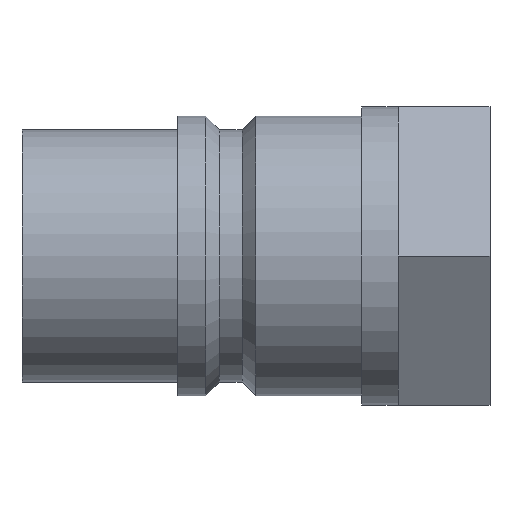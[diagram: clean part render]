
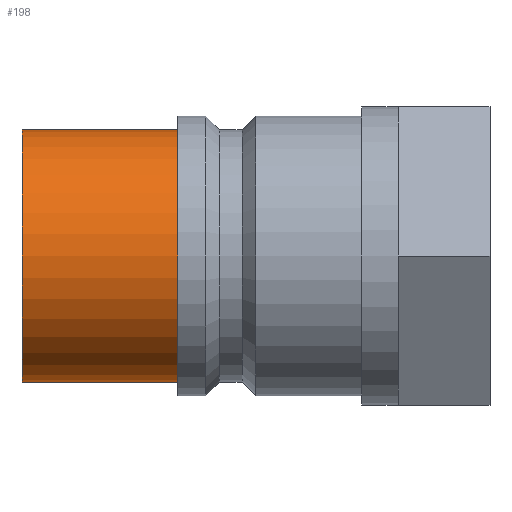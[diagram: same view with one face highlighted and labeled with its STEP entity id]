
A CAD part, front view. The second image highlights one B-rep face of the part: STEP entity #198.
In plain terms, the highlighted cylindrical face has radius 27.5 mm (diameter 55 mm), a partial arc.
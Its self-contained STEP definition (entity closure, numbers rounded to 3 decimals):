
#22 = CARTESIAN_POINT ( 'NONE',  ( 0., 0., 27.5 ) ) ;
#39 = VECTOR ( 'NONE', #316, 1000. ) ;
#46 = AXIS2_PLACEMENT_3D ( 'NONE', #734, #738, #752 ) ;
#103 = EDGE_CURVE ( 'NONE', #227, #874, #554, .T. ) ;
#111 = ORIENTED_EDGE ( 'NONE', *, *, #505, .F. ) ;
#177 = CIRCLE ( 'NONE', #187, 27.5 ) ;
#179 = CARTESIAN_POINT ( 'NONE',  ( 0., 0., -27.5 ) ) ;
#187 = AXIS2_PLACEMENT_3D ( 'NONE', #595, #601, #612 ) ;
#197 = EDGE_CURVE ( 'NONE', #874, #268, #263, .T. ) ;
#198 = ADVANCED_FACE ( 'NONE', ( #309 ), #617, .T. ) ;
#215 = CARTESIAN_POINT ( 'NONE',  ( 34., 0., 27.5 ) ) ;
#226 = LINE ( 'NONE', #179, #39 ) ;
#227 = VERTEX_POINT ( 'NONE', #583 ) ;
#249 = VECTOR ( 'NONE', #656, 1000. ) ;
#263 = LINE ( 'NONE', #720, #249 ) ;
#268 = VERTEX_POINT ( 'NONE', #22 ) ;
#273 = EDGE_CURVE ( 'NONE', #326, #268, #177, .T. ) ;
#286 = CARTESIAN_POINT ( 'NONE',  ( 0., 0., -27.5 ) ) ;
#309 = FACE_OUTER_BOUND ( 'NONE', #561, .T. ) ;
#316 = DIRECTION ( 'NONE',  ( -1., 0., 0. ) ) ;
#326 = VERTEX_POINT ( 'NONE', #286 ) ;
#345 = CARTESIAN_POINT ( 'NONE',  ( 34., 0., 0. ) ) ;
#352 = DIRECTION ( 'NONE',  ( -1., 0., 0. ) ) ;
#365 = DIRECTION ( 'NONE',  ( 0., 0., 1. ) ) ;
#505 = EDGE_CURVE ( 'NONE', #227, #326, #226, .T. ) ;
#554 = CIRCLE ( 'NONE', #607, 27.5 ) ;
#561 = EDGE_LOOP ( 'NONE', ( #111, #669, #837, #797 ) ) ;
#583 = CARTESIAN_POINT ( 'NONE',  ( 34., 0., -27.5 ) ) ;
#595 = CARTESIAN_POINT ( 'NONE',  ( 0., 0., 0. ) ) ;
#601 = DIRECTION ( 'NONE',  ( -1., 0., 0. ) ) ;
#607 = AXIS2_PLACEMENT_3D ( 'NONE', #345, #352, #365 ) ;
#612 = DIRECTION ( 'NONE',  ( 0., 0., 1. ) ) ;
#617 = CYLINDRICAL_SURFACE ( 'NONE', #46, 27.5 ) ;
#656 = DIRECTION ( 'NONE',  ( -1., 0., 0. ) ) ;
#669 = ORIENTED_EDGE ( 'NONE', *, *, #103, .T. ) ;
#720 = CARTESIAN_POINT ( 'NONE',  ( 0., 0., 27.5 ) ) ;
#734 = CARTESIAN_POINT ( 'NONE',  ( 0., 0., 0. ) ) ;
#738 = DIRECTION ( 'NONE',  ( -1., 0., 0. ) ) ;
#752 = DIRECTION ( 'NONE',  ( 0., 0., 1. ) ) ;
#797 = ORIENTED_EDGE ( 'NONE', *, *, #273, .F. ) ;
#837 = ORIENTED_EDGE ( 'NONE', *, *, #197, .T. ) ;
#874 = VERTEX_POINT ( 'NONE', #215 ) ;
